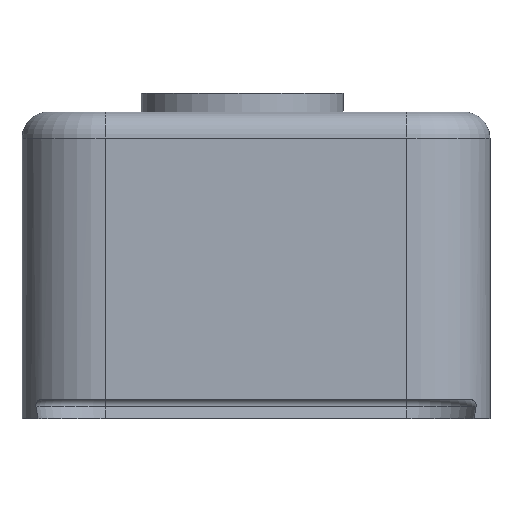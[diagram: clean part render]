
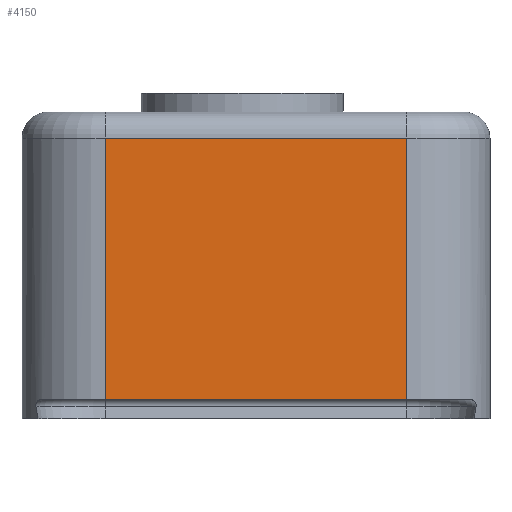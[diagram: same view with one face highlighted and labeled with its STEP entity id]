
A CAD part, left-side view. The second image highlights one B-rep face of the part: STEP entity #4150.
In plain terms, the highlighted planar face has unit normal (-1, 0, 0).
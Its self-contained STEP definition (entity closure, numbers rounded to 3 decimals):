
#368=FACE_OUTER_BOUND('',#606,.T.);
#606=EDGE_LOOP('',(#2887,#2888,#2889,#2890));
#973=LINE('',#5679,#1345);
#983=LINE('',#5729,#1355);
#984=LINE('',#5753,#1356);
#985=LINE('',#5754,#1357);
#1345=VECTOR('',#4748,10.);
#1355=VECTOR('',#4810,10.);
#1356=VECTOR('',#4819,10.);
#1357=VECTOR('',#4820,10.);
#1737=VERTEX_POINT('',#5676);
#1738=VERTEX_POINT('',#5678);
#1752=VERTEX_POINT('',#5728);
#1756=VERTEX_POINT('',#5752);
#2171=EDGE_CURVE('',#1737,#1738,#973,.T.);
#2197=EDGE_CURVE('',#1752,#1738,#983,.T.);
#2202=EDGE_CURVE('',#1756,#1737,#984,.T.);
#2203=EDGE_CURVE('',#1756,#1752,#985,.T.);
#2887=ORIENTED_EDGE('',*,*,#2171,.F.);
#2888=ORIENTED_EDGE('',*,*,#2202,.F.);
#2889=ORIENTED_EDGE('',*,*,#2203,.T.);
#2890=ORIENTED_EDGE('',*,*,#2197,.T.);
#4035=PLANE('',#4446);
#4150=ADVANCED_FACE('',(#368),#4035,.T.);
#4446=AXIS2_PLACEMENT_3D('',#5751,#4817,#4818);
#4748=DIRECTION('',(0.,-1.,0.));
#4810=DIRECTION('',(0.,0.,1.));
#4817=DIRECTION('center_axis',(-1.,0.,0.));
#4818=DIRECTION('ref_axis',(0.,-1.,0.));
#4819=DIRECTION('',(0.,0.,1.));
#4820=DIRECTION('',(0.,-1.,0.));
#5676=CARTESIAN_POINT('',(-1.65,27.9,21.56));
#5678=CARTESIAN_POINT('',(-1.65,4.75,21.56));
#5679=CARTESIAN_POINT('',(-1.65,22.113,21.56));
#5728=CARTESIAN_POINT('',(-1.65,4.75,1.5));
#5729=CARTESIAN_POINT('',(-1.65,4.75,0.));
#5751=CARTESIAN_POINT('Origin',(-1.65,27.9,0.));
#5752=CARTESIAN_POINT('',(-1.65,27.9,1.5));
#5753=CARTESIAN_POINT('',(-1.65,27.9,0.));
#5754=CARTESIAN_POINT('',(-1.65,22.113,1.5));
